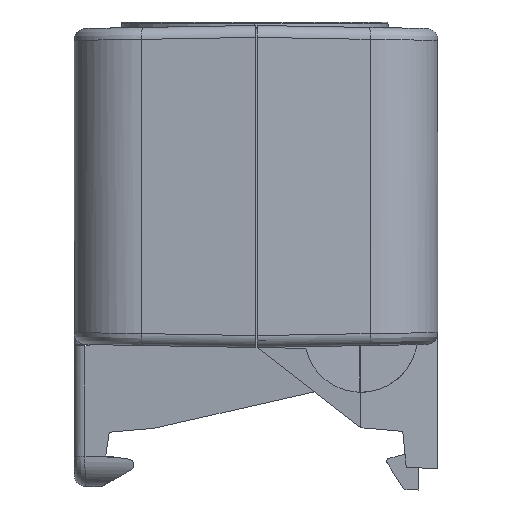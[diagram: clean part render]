
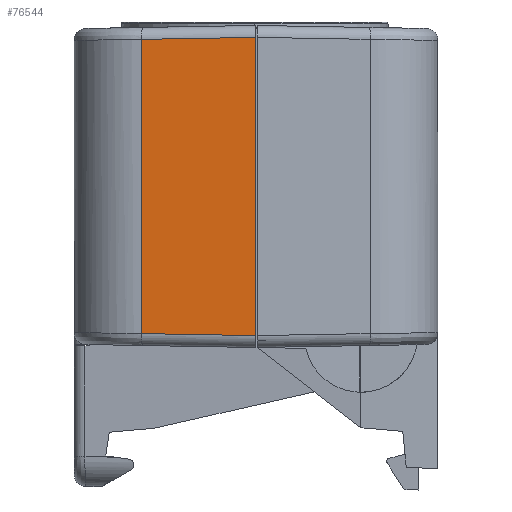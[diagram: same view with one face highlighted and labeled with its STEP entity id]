
A CAD part, left-side view. The second image highlights one B-rep face of the part: STEP entity #76544.
In plain terms, the highlighted planar face has unit normal (-0.999, 0.052, 0).
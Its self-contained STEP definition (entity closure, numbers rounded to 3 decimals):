
#7471 = DIRECTION ( 'NONE',  ( 0.052, 0.998, 0.017 ) ) ;
#7989 = CARTESIAN_POINT ( 'NONE',  ( -120., -0.2, -43.343 ) ) ;
#9720 = EDGE_CURVE ( 'NONE', #38308, #129735, #109602, .T. ) ;
#15376 = PLANE ( 'NONE',  #16113 ) ;
#15831 = CARTESIAN_POINT ( 'NONE',  ( -118.998, 18.928, 6.326 ) ) ;
#16113 = AXIS2_PLACEMENT_3D ( 'NONE', #95527, #143189, #141678 ) ;
#20679 = ORIENTED_EDGE ( 'NONE', *, *, #100797, .T. ) ;
#25909 = CARTESIAN_POINT ( 'NONE',  ( -120., -0.2, 6.66 ) ) ;
#32271 = ORIENTED_EDGE ( 'NONE', *, *, #120249, .F. ) ;
#32605 = DIRECTION ( 'NONE',  ( 0., 0., 1. ) ) ;
#35634 = EDGE_CURVE ( 'NONE', #133483, #38308, #128318, .T. ) ;
#38308 = VERTEX_POINT ( 'NONE', #7989 ) ;
#39942 = VERTEX_POINT ( 'NONE', #15831 ) ;
#43358 = CARTESIAN_POINT ( 'NONE',  ( -120., -0.2, 6.66 ) ) ;
#45402 = LINE ( 'NONE', #136235, #128681 ) ;
#55329 = VECTOR ( 'NONE', #140393, 1000. ) ;
#57045 = VECTOR ( 'NONE', #7471, 1000. ) ;
#67961 = ORIENTED_EDGE ( 'NONE', *, *, #35634, .F. ) ;
#68514 = CARTESIAN_POINT ( 'NONE',  ( -118.998, 18.928, -43.009 ) ) ;
#76544 = ADVANCED_FACE ( 'NONE', ( #118229 ), #15376, .T. ) ;
#88782 = VECTOR ( 'NONE', #116716, 1000. ) ;
#95527 = CARTESIAN_POINT ( 'NONE',  ( -120., -0.2, -18.341 ) ) ;
#100486 = CARTESIAN_POINT ( 'NONE',  ( -119.673, 6.035, -43.234 ) ) ;
#100797 = EDGE_CURVE ( 'NONE', #133483, #39942, #131045, .T. ) ;
#103366 = CARTESIAN_POINT ( 'NONE',  ( -120., -0.2, -68.341 ) ) ;
#109602 = LINE ( 'NONE', #100486, #57045 ) ;
#116716 = DIRECTION ( 'NONE',  ( 0.052, 0.998, -0.017 ) ) ;
#118229 = FACE_OUTER_BOUND ( 'NONE', #148258, .T. ) ;
#120249 = EDGE_CURVE ( 'NONE', #129735, #39942, #45402, .T. ) ;
#124420 = ORIENTED_EDGE ( 'NONE', *, *, #9720, .F. ) ;
#128318 = LINE ( 'NONE', #103366, #55329 ) ;
#128681 = VECTOR ( 'NONE', #32605, 1000. ) ;
#129735 = VERTEX_POINT ( 'NONE', #68514 ) ;
#131045 = LINE ( 'NONE', #25909, #88782 ) ;
#133483 = VERTEX_POINT ( 'NONE', #43358 ) ;
#136235 = CARTESIAN_POINT ( 'NONE',  ( -118.998, 18.928, -18.341 ) ) ;
#140393 = DIRECTION ( 'NONE',  ( 0., 0., -1. ) ) ;
#141678 = DIRECTION ( 'NONE',  ( 0.052, 0.999, 0. ) ) ;
#143189 = DIRECTION ( 'NONE',  ( -0.999, 0.052, 0. ) ) ;
#148258 = EDGE_LOOP ( 'NONE', ( #67961, #20679, #32271, #124420 ) ) ;
